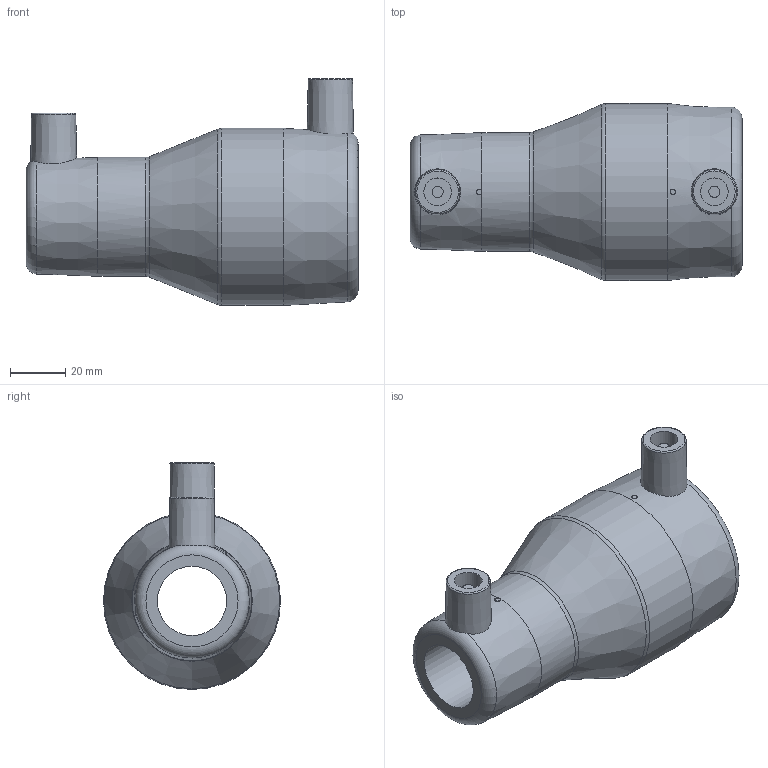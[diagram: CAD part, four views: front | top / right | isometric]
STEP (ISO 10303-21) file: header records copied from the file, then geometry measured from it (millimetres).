
FILE_DESCRIPTION(/* description */ ('Unknown'),/* implementation_level */ '2;1');
FILE_NAME(/* name */ 'REP050025C',/* time_stamp */ '2021-05-24T16:02:13+02:00',/* author */ ('Unknown'),/* organization */ ('Unknown'),/* preprocessor_version */ 'ST-DEVELOPER v16.7',/* originating_system */ 'Solid Edge',/* authorisation */ 'Unknown');
FILE_SCHEMA (('AUTOMOTIVE_DESIGN {1 0 10303 214 3 1 1}'));
Length unit declared in the file: millimetre
Products named in the file (1): REP050025C
Bounding box: 120 x 64 x 82 mm (x, y, z)
Volume: 136304.7 mm3; surface area: 39294.2 mm2
Topology: 1 solids, 1 shells, 32 faces, 70 edges, 44 vertices
Faces by surface type: cylinder 10, plane 10, cone 6, torus 6
Full cylindrical faces by diameter (mm): 2 x2, 4 x2, 10 x2, 25 x1, 43 x1, 50 x1, 64 x1
Entity records: 726 total; most frequent: CARTESIAN_POINT 156, DIRECTION 122, ORIENTED_EDGE 68, EDGE_LOOP 61, FACE_BOUND 61, AXIS2_PLACEMENT_3D 61, EDGE_CURVE 34, ADVANCED_FACE 32
